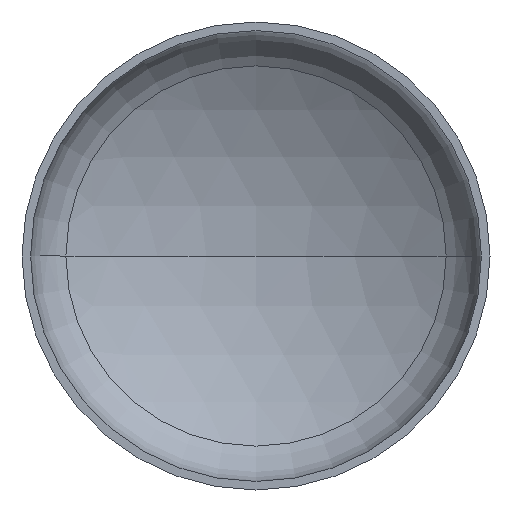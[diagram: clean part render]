
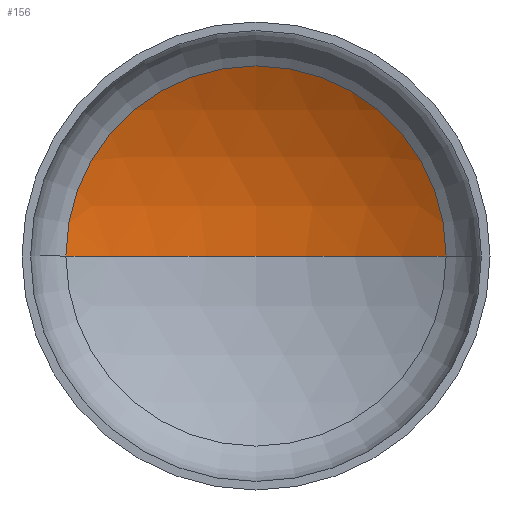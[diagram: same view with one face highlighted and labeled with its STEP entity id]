
A CAD part, front view. The second image highlights one B-rep face of the part: STEP entity #156.
In plain terms, the highlighted spherical face has radius 480 mm.
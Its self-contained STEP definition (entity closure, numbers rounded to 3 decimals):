
#1 = AXIS2_PLACEMENT_3D ( 'NONE', #117, #313, #169 ) ;
#6 = AXIS2_PLACEMENT_3D ( 'NONE', #366, #369, #227 ) ;
#19 = EDGE_LOOP ( 'NONE', ( #160, #107, #147 ) ) ;
#26 = AXIS2_PLACEMENT_3D ( 'NONE', #401, #402, #307 ) ;
#32 = SPHERICAL_SURFACE ( 'NONE', #68, 480. ) ;
#49 = VERTEX_POINT ( 'NONE', #355 ) ;
#66 = VERTEX_POINT ( 'NONE', #279 ) ;
#68 = AXIS2_PLACEMENT_3D ( 'NONE', #308, #226, #212 ) ;
#107 = ORIENTED_EDGE ( 'NONE', *, *, #397, .T. ) ;
#117 = CARTESIAN_POINT ( 'NONE',  ( 0., -294.268, 0. ) ) ;
#147 = ORIENTED_EDGE ( 'NONE', *, *, #356, .T. ) ;
#156 = ADVANCED_FACE ( 'NONE', ( #180 ), #32, .F. ) ;
#160 = ORIENTED_EDGE ( 'NONE', *, *, #390, .F. ) ;
#168 = VERTEX_POINT ( 'NONE', #192 ) ;
#169 = DIRECTION ( 'NONE',  ( -1., 0., 0. ) ) ;
#180 = FACE_OUTER_BOUND ( 'NONE', #19, .T. ) ;
#191 = CIRCLE ( 'NONE', #6, 480. ) ;
#192 = CARTESIAN_POINT ( 'NONE',  ( -243.711, 119.259, 0. ) ) ;
#212 = DIRECTION ( 'NONE',  ( -1., 0., 0. ) ) ;
#226 = DIRECTION ( 'NONE',  ( 0., 0., -1. ) ) ;
#227 = DIRECTION ( 'NONE',  ( 1., 0., 0. ) ) ;
#249 = CIRCLE ( 'NONE', #1, 480. ) ;
#279 = CARTESIAN_POINT ( 'NONE',  ( 0., 185.732, 0. ) ) ;
#307 = DIRECTION ( 'NONE',  ( 1., 0., 0. ) ) ;
#308 = CARTESIAN_POINT ( 'NONE',  ( 0., -294.268, 0. ) ) ;
#313 = DIRECTION ( 'NONE',  ( 0., 0., -1. ) ) ;
#332 = CIRCLE ( 'NONE', #26, 243.711 ) ;
#355 = CARTESIAN_POINT ( 'NONE',  ( 243.711, 119.259, 0. ) ) ;
#356 = EDGE_CURVE ( 'NONE', #49, #168, #332, .T. ) ;
#366 = CARTESIAN_POINT ( 'NONE',  ( 0., -294.268, 0. ) ) ;
#369 = DIRECTION ( 'NONE',  ( 0., 0., 1. ) ) ;
#390 = EDGE_CURVE ( 'NONE', #66, #168, #191, .T. ) ;
#397 = EDGE_CURVE ( 'NONE', #66, #49, #249, .T. ) ;
#401 = CARTESIAN_POINT ( 'NONE',  ( 0., 119.259, 0. ) ) ;
#402 = DIRECTION ( 'NONE',  ( 0., -1., 0. ) ) ;
